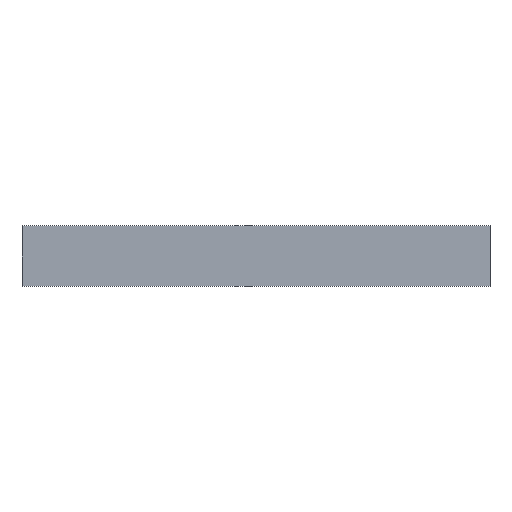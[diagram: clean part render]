
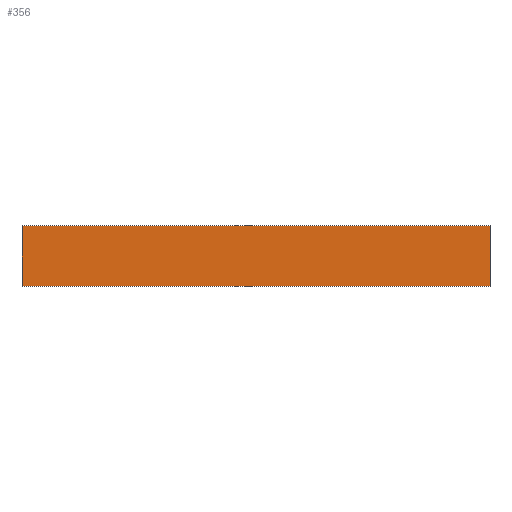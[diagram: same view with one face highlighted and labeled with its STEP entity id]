
A CAD part, top view. The second image highlights one B-rep face of the part: STEP entity #356.
In plain terms, the highlighted planar face has unit normal (0, 0, 1).
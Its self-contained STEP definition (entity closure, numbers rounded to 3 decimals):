
#42 = VERTEX_POINT('',#43);
#43 = CARTESIAN_POINT('',(0.,0.,0.6));
#50 = PLANE('',#51);
#51 = AXIS2_PLACEMENT_3D('',#52,#53,#54);
#52 = CARTESIAN_POINT('',(0.,0.,0.));
#53 = DIRECTION('',(1.,0.,-0.));
#54 = DIRECTION('',(0.,0.,1.));
#62 = PLANE('',#63);
#63 = AXIS2_PLACEMENT_3D('',#64,#65,#66);
#64 = CARTESIAN_POINT('',(0.,0.,0.));
#65 = DIRECTION('',(-0.,1.,0.));
#66 = DIRECTION('',(0.,0.,1.));
#103 = VERTEX_POINT('',#104);
#104 = CARTESIAN_POINT('',(0.,14.3,0.6));
#118 = PLANE('',#119);
#119 = AXIS2_PLACEMENT_3D('',#120,#121,#122);
#120 = CARTESIAN_POINT('',(0.,14.3,0.));
#121 = DIRECTION('',(-0.,1.,0.));
#122 = DIRECTION('',(0.,0.,1.));
#130 = EDGE_CURVE('',#42,#103,#131,.T.);
#131 = SURFACE_CURVE('',#132,(#136,#143),.PCURVE_S1.);
#132 = LINE('',#133,#134);
#133 = CARTESIAN_POINT('',(0.,0.,0.6));
#134 = VECTOR('',#135,1.);
#135 = DIRECTION('',(-0.,1.,0.));
#136 = PCURVE('',#50,#137);
#137 = DEFINITIONAL_REPRESENTATION('',(#138),#142);
#138 = LINE('',#139,#140);
#139 = CARTESIAN_POINT('',(0.6,0.));
#140 = VECTOR('',#141,1.);
#141 = DIRECTION('',(0.,-1.));
#142 = ( GEOMETRIC_REPRESENTATION_CONTEXT(2) 
PARAMETRIC_REPRESENTATION_CONTEXT() REPRESENTATION_CONTEXT('2D SPACE',''
  ) );
#143 = PCURVE('',#144,#149);
#144 = PLANE('',#145);
#145 = AXIS2_PLACEMENT_3D('',#146,#147,#148);
#146 = CARTESIAN_POINT('',(0.,0.,0.6));
#147 = DIRECTION('',(0.,0.,1.));
#148 = DIRECTION('',(1.,0.,-0.));
#149 = DEFINITIONAL_REPRESENTATION('',(#150),#154);
#150 = LINE('',#151,#152);
#151 = CARTESIAN_POINT('',(0.,0.));
#152 = VECTOR('',#153,1.);
#153 = DIRECTION('',(0.,1.));
#154 = ( GEOMETRIC_REPRESENTATION_CONTEXT(2) 
PARAMETRIC_REPRESENTATION_CONTEXT() REPRESENTATION_CONTEXT('2D SPACE',''
  ) );
#162 = VERTEX_POINT('',#163);
#163 = CARTESIAN_POINT('',(109.85,0.,0.6));
#170 = PLANE('',#171);
#171 = AXIS2_PLACEMENT_3D('',#172,#173,#174);
#172 = CARTESIAN_POINT('',(109.85,0.,0.));
#173 = DIRECTION('',(1.,0.,-0.));
#174 = DIRECTION('',(0.,0.,1.));
#213 = VERTEX_POINT('',#214);
#214 = CARTESIAN_POINT('',(109.85,14.3,0.6));
#235 = EDGE_CURVE('',#162,#213,#236,.T.);
#236 = SURFACE_CURVE('',#237,(#241,#248),.PCURVE_S1.);
#237 = LINE('',#238,#239);
#238 = CARTESIAN_POINT('',(109.85,0.,0.6));
#239 = VECTOR('',#240,1.);
#240 = DIRECTION('',(-0.,1.,0.));
#241 = PCURVE('',#170,#242);
#242 = DEFINITIONAL_REPRESENTATION('',(#243),#247);
#243 = LINE('',#244,#245);
#244 = CARTESIAN_POINT('',(0.6,0.));
#245 = VECTOR('',#246,1.);
#246 = DIRECTION('',(0.,-1.));
#247 = ( GEOMETRIC_REPRESENTATION_CONTEXT(2) 
PARAMETRIC_REPRESENTATION_CONTEXT() REPRESENTATION_CONTEXT('2D SPACE',''
  ) );
#248 = PCURVE('',#144,#249);
#249 = DEFINITIONAL_REPRESENTATION('',(#250),#254);
#250 = LINE('',#251,#252);
#251 = CARTESIAN_POINT('',(109.85,0.));
#252 = VECTOR('',#253,1.);
#253 = DIRECTION('',(0.,1.));
#254 = ( GEOMETRIC_REPRESENTATION_CONTEXT(2) 
PARAMETRIC_REPRESENTATION_CONTEXT() REPRESENTATION_CONTEXT('2D SPACE',''
  ) );
#281 = EDGE_CURVE('',#42,#162,#282,.T.);
#282 = SURFACE_CURVE('',#283,(#287,#294),.PCURVE_S1.);
#283 = LINE('',#284,#285);
#284 = CARTESIAN_POINT('',(0.,0.,0.6));
#285 = VECTOR('',#286,1.);
#286 = DIRECTION('',(1.,0.,-0.));
#287 = PCURVE('',#62,#288);
#288 = DEFINITIONAL_REPRESENTATION('',(#289),#293);
#289 = LINE('',#290,#291);
#290 = CARTESIAN_POINT('',(0.6,0.));
#291 = VECTOR('',#292,1.);
#292 = DIRECTION('',(0.,1.));
#293 = ( GEOMETRIC_REPRESENTATION_CONTEXT(2) 
PARAMETRIC_REPRESENTATION_CONTEXT() REPRESENTATION_CONTEXT('2D SPACE',''
  ) );
#294 = PCURVE('',#144,#295);
#295 = DEFINITIONAL_REPRESENTATION('',(#296),#300);
#296 = LINE('',#297,#298);
#297 = CARTESIAN_POINT('',(0.,0.));
#298 = VECTOR('',#299,1.);
#299 = DIRECTION('',(1.,0.));
#300 = ( GEOMETRIC_REPRESENTATION_CONTEXT(2) 
PARAMETRIC_REPRESENTATION_CONTEXT() REPRESENTATION_CONTEXT('2D SPACE',''
  ) );
#328 = EDGE_CURVE('',#103,#213,#329,.T.);
#329 = SURFACE_CURVE('',#330,(#334,#341),.PCURVE_S1.);
#330 = LINE('',#331,#332);
#331 = CARTESIAN_POINT('',(0.,14.3,0.6));
#332 = VECTOR('',#333,1.);
#333 = DIRECTION('',(1.,0.,-0.));
#334 = PCURVE('',#118,#335);
#335 = DEFINITIONAL_REPRESENTATION('',(#336),#340);
#336 = LINE('',#337,#338);
#337 = CARTESIAN_POINT('',(0.6,0.));
#338 = VECTOR('',#339,1.);
#339 = DIRECTION('',(0.,1.));
#340 = ( GEOMETRIC_REPRESENTATION_CONTEXT(2) 
PARAMETRIC_REPRESENTATION_CONTEXT() REPRESENTATION_CONTEXT('2D SPACE',''
  ) );
#341 = PCURVE('',#144,#342);
#342 = DEFINITIONAL_REPRESENTATION('',(#343),#347);
#343 = LINE('',#344,#345);
#344 = CARTESIAN_POINT('',(0.,14.3));
#345 = VECTOR('',#346,1.);
#346 = DIRECTION('',(1.,0.));
#347 = ( GEOMETRIC_REPRESENTATION_CONTEXT(2) 
PARAMETRIC_REPRESENTATION_CONTEXT() REPRESENTATION_CONTEXT('2D SPACE',''
  ) );
#356 = ADVANCED_FACE('',(#357),#144,.T.);
#357 = FACE_BOUND('',#358,.T.);
#358 = EDGE_LOOP('',(#359,#360,#361,#362));
#359 = ORIENTED_EDGE('',*,*,#130,.F.);
#360 = ORIENTED_EDGE('',*,*,#281,.T.);
#361 = ORIENTED_EDGE('',*,*,#235,.T.);
#362 = ORIENTED_EDGE('',*,*,#328,.F.);
